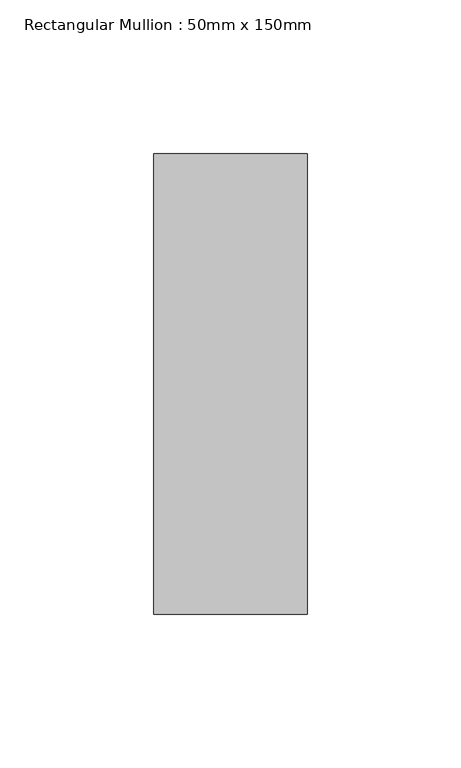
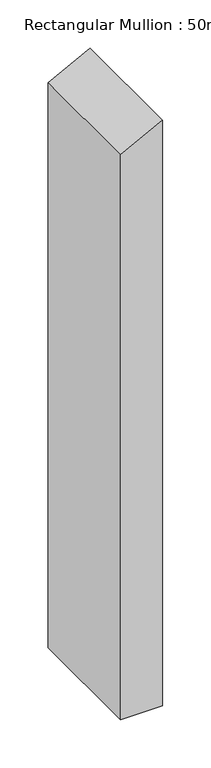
"""IFC4 building model written with IfcOpenShell, lengths in millimetres: member geometry, Rectangular Mullion : 50mm x 150mm."""

from ifc_helpers import new_model, si_unit, frame, origin, place, context, project, spatial, polyline, outline, extrude, source, transform, mapped, element, save


def rectangular_mullion_50mm_x_150mm_74fb06e2(model_context):
    return source(origin(), model_context, "Body", "SweptSolid", [
        extrude(outline(polyline([(0.0, 0.0), (-25.6691077, -50.0), (-738.3746542, -50.0), (-738.3746542, 0.0), (0.0, 0.0)])), frame((0.0, -75.0, 0.0), z_axis=(0.0, 1.0, 0.0), x_axis=(0.0, 0.0, 1.0)), (0.0, 0.0, 1.0), 150.0),
    ])


if __name__ == "__main__":
    model = new_model("IFC4")
    model_context = context("Model", 3, world=origin())
    ifc_project = project(units=[si_unit("LENGTHUNIT", "METRE", prefix="MILLI")], contexts=[model_context])
    site = spatial("IfcSite", under=ifc_project)
    building = spatial("IfcBuilding", under=site)
    placement = place(None, origin())
    rectangular_mullion_50mm_x_150mm_shape = rectangular_mullion_50mm_x_150mm_74fb06e2(model_context)
    element("IfcMember", 1, ObjectType="Rectangular Mullion : 50mm x 150mm", at=placement, inside=building, context=model_context, shape_type="MappedRepresentation", body=[
        mapped(rectangular_mullion_50mm_x_150mm_shape, transform((0.0, 0.0, 0.0), x_axis=(1.0, 0.0, 0.0), y_axis=(0.0, 1.0, 0.0), z_axis=(0.0, 0.0, 1.0))),
    ])
    save(model, "model.ifc")
